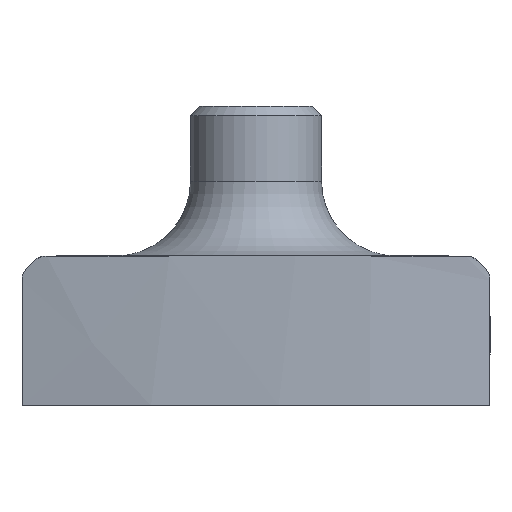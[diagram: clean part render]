
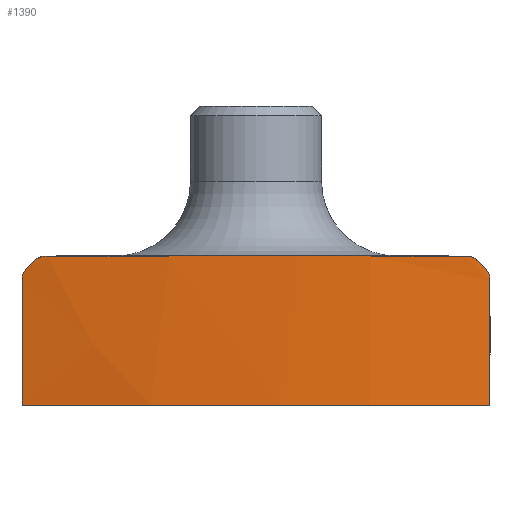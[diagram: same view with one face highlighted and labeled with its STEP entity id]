
A CAD part, front view. The second image highlights one B-rep face of the part: STEP entity #1390.
In plain terms, the highlighted free-form (B-spline) face has degree [3, 1] with [5, 2] control points.
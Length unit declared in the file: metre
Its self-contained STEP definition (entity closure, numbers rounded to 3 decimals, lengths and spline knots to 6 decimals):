
#23=B_SPLINE_SURFACE_WITH_KNOTS('',3,1,((#1865,#1866),(#1867,#1868),(#1869,
#1870),(#1871,#1872),(#1873,#1874)),.SURF_OF_LINEAR_EXTRUSION.,.F.,.F.,.F.,(4,1,4),(2,2),(0.04985,0.5,0.95015),(0.,1.),.UNSPECIFIED.);
#72=LINE('',#1875,#95);
#73=LINE('',#1918,#96);
#95=VECTOR('',#1590,1.);
#96=VECTOR('',#1591,1.);
#130=B_SPLINE_CURVE_WITH_KNOTS('',3,(#1838,#1839,#1840,#1841),.UNSPECIFIED.,.F.,.F.,(4,4),(0.000418,0.000877),.UNSPECIFIED.);
#135=B_SPLINE_CURVE_WITH_KNOTS('',3,(#1878,#1879,#1880,#1881),.UNSPECIFIED.,.F.,.F.,(4,4),(0.,1.),.UNSPECIFIED.);
#136=B_SPLINE_CURVE_WITH_KNOTS('',3,(#1883,#1884,#1885,#1886),.UNSPECIFIED.,.F.,.F.,(4,4),(0.000418,0.000877),.UNSPECIFIED.);
#137=B_SPLINE_CURVE_WITH_KNOTS('',3,(#1888,#1889,#1890,#1891,#1892,#1893,#1894,#1895,#1896),.UNSPECIFIED.,.F.,.F.,(4,1,1,1,1,1,4),(0.,0.25,0.375,0.5,0.625,0.75,1.),.UNSPECIFIED.);
#138=B_SPLINE_CURVE_WITH_KNOTS('',3,(#1898,#1899,#1900,#1901,#1902),.UNSPECIFIED.,.F.,.F.,(4,1,4),(0.,0.5,1.),.QUASI_UNIFORM_KNOTS.);
#139=B_SPLINE_CURVE_WITH_KNOTS('',3,(#1904,#1905,#1906,#1907,#1908,#1909,#1910,#1911,#1912),.UNSPECIFIED.,.F.,.F.,(4,1,1,1,1,1,4),(0.,0.25,0.375,0.5,0.625,0.75,1.),.UNSPECIFIED.);
#140=B_SPLINE_CURVE_WITH_KNOTS('',3,(#1913,#1914,#1915,#1916),.UNSPECIFIED.,.F.,.F.,(4,4),(0.,1.),.UNSPECIFIED.);
#141=B_SPLINE_CURVE_WITH_KNOTS('',3,(#1920,#1921,#1922,#1923,#1924),.UNSPECIFIED.,.F.,.F.,(4,1,4),(0.,0.5,1.),.QUASI_UNIFORM_KNOTS.);
#331=ORIENTED_EDGE('',*,*,#783,.F.);
#332=ORIENTED_EDGE('',*,*,#784,.T.);
#333=ORIENTED_EDGE('',*,*,#785,.F.);
#334=ORIENTED_EDGE('',*,*,#786,.T.);
#335=ORIENTED_EDGE('',*,*,#787,.F.);
#336=ORIENTED_EDGE('',*,*,#788,.T.);
#337=ORIENTED_EDGE('',*,*,#777,.T.);
#338=ORIENTED_EDGE('',*,*,#789,.T.);
#339=ORIENTED_EDGE('',*,*,#790,.T.);
#340=ORIENTED_EDGE('',*,*,#791,.T.);
#777=EDGE_CURVE('',#1004,#1003,#130,.T.);
#783=EDGE_CURVE('',#1009,#1010,#72,.T.);
#784=EDGE_CURVE('',#1009,#1011,#135,.F.);
#785=EDGE_CURVE('',#1012,#1011,#136,.T.);
#786=EDGE_CURVE('',#1012,#1013,#137,.F.);
#787=EDGE_CURVE('',#1014,#1013,#138,.T.);
#788=EDGE_CURVE('',#1014,#1004,#139,.F.);
#789=EDGE_CURVE('',#1003,#1015,#140,.F.);
#790=EDGE_CURVE('',#1015,#1016,#73,.T.);
#791=EDGE_CURVE('',#1016,#1010,#141,.T.);
#1003=VERTEX_POINT('',#1837);
#1004=VERTEX_POINT('',#1842);
#1009=VERTEX_POINT('',#1876);
#1010=VERTEX_POINT('',#1877);
#1011=VERTEX_POINT('',#1882);
#1012=VERTEX_POINT('',#1887);
#1013=VERTEX_POINT('',#1897);
#1014=VERTEX_POINT('',#1903);
#1015=VERTEX_POINT('',#1917);
#1016=VERTEX_POINT('',#1919);
#1157=EDGE_LOOP('',(#331,#332,#333,#334,#335,#336,#337,#338,#339,#340));
#1264=FACE_BOUND('',#1157,.T.);
#1390=ADVANCED_FACE('',(#1264),#23,.F.);
#1590=DIRECTION('',(0.,0.,-1.));
#1591=DIRECTION('',(0.,0.,-1.));
#1837=CARTESIAN_POINT('',(-0.012207,0.009584,0.058381));
#1838=CARTESIAN_POINT('',(-0.011886,0.00952,0.058702));
#1839=CARTESIAN_POINT('',(-0.011993,0.009541,0.058595));
#1840=CARTESIAN_POINT('',(-0.0121,0.009562,0.058488));
#1841=CARTESIAN_POINT('',(-0.012207,0.009584,0.058381));
#1842=CARTESIAN_POINT('',(-0.011886,0.00952,0.058702));
#1865=CARTESIAN_POINT('',(-0.0125,0.009643,0.058995));
#1866=CARTESIAN_POINT('',(-0.0125,0.009643,0.050995));
#1867=CARTESIAN_POINT('',(-0.006752,0.008475,0.058995));
#1868=CARTESIAN_POINT('',(-0.006752,0.008475,0.050995));
#1869=CARTESIAN_POINT('',(0.,0.008475,0.058995));
#1870=CARTESIAN_POINT('',(0.,0.008475,0.050995));
#1871=CARTESIAN_POINT('',(0.006752,0.008475,0.058995));
#1872=CARTESIAN_POINT('',(0.006752,0.008475,0.050995));
#1873=CARTESIAN_POINT('',(0.0125,0.009643,0.058995));
#1874=CARTESIAN_POINT('',(0.0125,0.009643,0.050995));
#1875=CARTESIAN_POINT('',(0.0125,0.009643,0.058995));
#1876=CARTESIAN_POINT('',(0.0125,0.009643,0.057674));
#1877=CARTESIAN_POINT('',(0.0125,0.009643,0.050995));
#1878=CARTESIAN_POINT('',(0.012207,0.009584,0.05838));
#1879=CARTESIAN_POINT('',(0.012412,0.009624,0.058182));
#1880=CARTESIAN_POINT('',(0.012504,0.009642,0.057944));
#1881=CARTESIAN_POINT('',(0.012499,0.009643,0.057674));
#1882=CARTESIAN_POINT('',(0.012207,0.009584,0.058381));
#1883=CARTESIAN_POINT('',(0.011886,0.00952,0.058702));
#1884=CARTESIAN_POINT('',(0.011993,0.009541,0.058595));
#1885=CARTESIAN_POINT('',(0.0121,0.009562,0.058488));
#1886=CARTESIAN_POINT('',(0.012207,0.009584,0.058381));
#1887=CARTESIAN_POINT('',(0.011886,0.00952,0.058702));
#1888=CARTESIAN_POINT('',(0.011179,0.009387,0.058994));
#1889=CARTESIAN_POINT('',(0.011285,0.009406,0.058996));
#1890=CARTESIAN_POINT('',(0.01141,0.009429,0.058975));
#1891=CARTESIAN_POINT('',(0.011523,0.009451,0.058937));
#1892=CARTESIAN_POINT('',(0.011547,0.009455,0.058929));
#1893=CARTESIAN_POINT('',(0.011662,0.009477,0.058876));
#1894=CARTESIAN_POINT('',(0.011769,0.009498,0.058808));
#1895=CARTESIAN_POINT('',(0.011843,0.009512,0.058745));
#1896=CARTESIAN_POINT('',(0.011885,0.00952,0.058702));
#1897=CARTESIAN_POINT('',(0.011179,0.009387,0.058995));
#1898=CARTESIAN_POINT('',(-0.0145,0.010075,0.058995));
#1899=CARTESIAN_POINT('',(-0.0075,0.008475,0.058995));
#1900=CARTESIAN_POINT('',(0.,0.008475,0.058995));
#1901=CARTESIAN_POINT('',(0.0075,0.008475,0.058995));
#1902=CARTESIAN_POINT('',(0.0145,0.010075,0.058995));
#1903=CARTESIAN_POINT('',(-0.011179,0.009387,0.058995));
#1904=CARTESIAN_POINT('',(-0.011885,0.00952,0.058702));
#1905=CARTESIAN_POINT('',(-0.011843,0.009512,0.058745));
#1906=CARTESIAN_POINT('',(-0.011769,0.009498,0.058808));
#1907=CARTESIAN_POINT('',(-0.011662,0.009477,0.058876));
#1908=CARTESIAN_POINT('',(-0.011547,0.009455,0.058929));
#1909=CARTESIAN_POINT('',(-0.011523,0.009451,0.058937));
#1910=CARTESIAN_POINT('',(-0.01141,0.009429,0.058975));
#1911=CARTESIAN_POINT('',(-0.011285,0.009406,0.058996));
#1912=CARTESIAN_POINT('',(-0.011179,0.009387,0.058994));
#1913=CARTESIAN_POINT('',(-0.012499,0.009643,0.057674));
#1914=CARTESIAN_POINT('',(-0.012504,0.009642,0.057944));
#1915=CARTESIAN_POINT('',(-0.012412,0.009624,0.058182));
#1916=CARTESIAN_POINT('',(-0.012207,0.009584,0.05838));
#1917=CARTESIAN_POINT('',(-0.0125,0.009643,0.057674));
#1918=CARTESIAN_POINT('',(-0.0125,0.009643,0.058995));
#1919=CARTESIAN_POINT('',(-0.0125,0.009643,0.050995));
#1920=CARTESIAN_POINT('',(-0.0145,0.010075,0.050995));
#1921=CARTESIAN_POINT('',(-0.0075,0.008475,0.050995));
#1922=CARTESIAN_POINT('',(0.,0.008475,0.050995));
#1923=CARTESIAN_POINT('',(0.0075,0.008475,0.050995));
#1924=CARTESIAN_POINT('',(0.0145,0.010075,0.050995));
